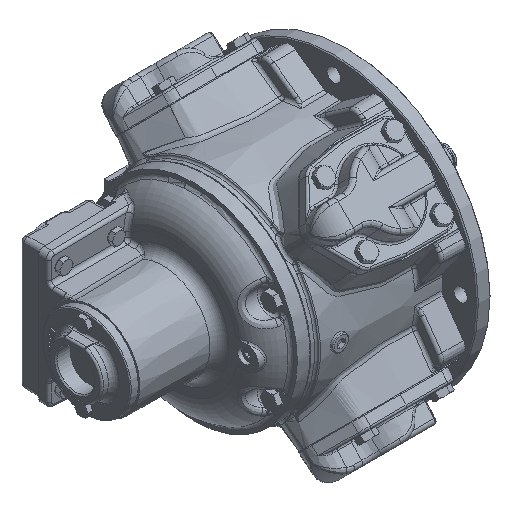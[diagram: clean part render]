
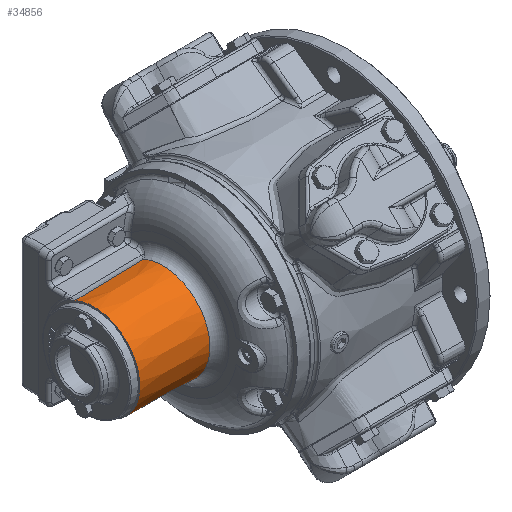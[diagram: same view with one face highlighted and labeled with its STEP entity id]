
A CAD part, isometric view. The second image highlights one B-rep face of the part: STEP entity #34856.
In plain terms, the highlighted conical face has half-angle 1 degrees and reference radius 49.33 mm.
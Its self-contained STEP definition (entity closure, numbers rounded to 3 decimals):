
#541 = CARTESIAN_POINT ( 'NONE',  ( -139.334, 20.042, 44.793 ) ) ;
#900 = DIRECTION ( 'NONE',  ( 1., 0., 0. ) ) ;
#2123 = CARTESIAN_POINT ( 'NONE',  ( -124.625, 20.109, -45.045 ) ) ;
#7857 = CARTESIAN_POINT ( 'NONE',  ( -154.043, 19.976, 44.542 ) ) ;
#8539 = CIRCLE ( 'NONE', #89902, 48.073 ) ;
#8758 = VERTEX_POINT ( 'NONE', #67994 ) ;
#12501 = VERTEX_POINT ( 'NONE', #88457 ) ;
#13377 = CARTESIAN_POINT ( 'NONE',  ( -178.035, 19.867, -44.132 ) ) ;
#13444 = CARTESIAN_POINT ( 'NONE',  ( -124.625, 20.109, 45.045 ) ) ;
#14730 = CARTESIAN_POINT ( 'NONE',  ( -168.752, 19.909, 44.291 ) ) ;
#15742 = EDGE_CURVE ( 'NONE', #8758, #82691, #35671, .T. ) ;
#21384 = AXIS2_PLACEMENT_3D ( 'NONE', #45443, #23831, #68020 ) ;
#22567 = CARTESIAN_POINT ( 'NONE',  ( -187.317, 19.824, 43.973 ) ) ;
#23831 = DIRECTION ( 'NONE',  ( 1., 0., 0. ) ) ;
#26630 = CARTESIAN_POINT ( 'NONE',  ( -124.625, 20.109, -45.045 ) ) ;
#28085 = EDGE_LOOP ( 'NONE', ( #32827, #77390, #62049, #72525 ) ) ;
#30425 = CARTESIAN_POINT ( 'NONE',  ( -124.625, 20.109, 45.045 ) ) ;
#31756 = VERTEX_POINT ( 'NONE', #2123 ) ;
#32827 = ORIENTED_EDGE ( 'NONE', *, *, #63485, .F. ) ;
#34856 = ADVANCED_FACE ( 'NONE', ( #38112 ), #75278, .T. ) ;
#35671 = B_SPLINE_CURVE_WITH_KNOTS ( 'NONE', 3,
 ( #51533, #22567, #81424, #14730, #7857, #541, #30425 ),
 .UNSPECIFIED., .F., .F.,
 ( 4, 3, 4 ),
 ( 0.002, 0.03, 0.074 ),
 .UNSPECIFIED. ) ;
#38112 = FACE_OUTER_BOUND ( 'NONE', #28085, .T. ) ;
#42314 = CARTESIAN_POINT ( 'NONE',  ( -196.6, 19.782, -43.815 ) ) ;
#44836 = DIRECTION ( 'NONE',  ( 0., 0., 1. ) ) ;
#45443 = CARTESIAN_POINT ( 'NONE',  ( -124.625, 0., 0. ) ) ;
#45774 = DIRECTION ( 'NONE',  ( 1., 0., 0. ) ) ;
#51533 = CARTESIAN_POINT ( 'NONE',  ( -196.6, 19.782, 43.815 ) ) ;
#53283 = EDGE_CURVE ( 'NONE', #12501, #31756, #82122, .T. ) ;
#56987 = CARTESIAN_POINT ( 'NONE',  ( -187.317, 19.824, -43.973 ) ) ;
#62049 = ORIENTED_EDGE ( 'NONE', *, *, #66182, .T. ) ;
#63485 = EDGE_CURVE ( 'NONE', #82691, #31756, #85544, .T. ) ;
#63873 = CARTESIAN_POINT ( 'NONE',  ( -168.752, 19.909, -44.291 ) ) ;
#64853 = CARTESIAN_POINT ( 'NONE',  ( -154.043, 19.976, -44.542 ) ) ;
#66182 = EDGE_CURVE ( 'NONE', #8758, #12501, #8539, .T. ) ;
#67994 = CARTESIAN_POINT ( 'NONE',  ( -196.6, 19.782, 43.815 ) ) ;
#68020 = DIRECTION ( 'NONE',  ( 0., 0., -1. ) ) ;
#68036 = CARTESIAN_POINT ( 'NONE',  ( -124.625, 0., 0. ) ) ;
#72197 = AXIS2_PLACEMENT_3D ( 'NONE', #68036, #900, #90519 ) ;
#72525 = ORIENTED_EDGE ( 'NONE', *, *, #53283, .T. ) ;
#75278 = CONICAL_SURFACE ( 'NONE', #72197, 49.33, 0.017 ) ;
#77390 = ORIENTED_EDGE ( 'NONE', *, *, #15742, .F. ) ;
#81424 = CARTESIAN_POINT ( 'NONE',  ( -178.035, 19.867, 44.132 ) ) ;
#82122 = B_SPLINE_CURVE_WITH_KNOTS ( 'NONE', 3,
 ( #42314, #56987, #13377, #63873, #64853, #94670, #26630 ),
 .UNSPECIFIED., .F., .F.,
 ( 4, 3, 4 ),
 ( 0.002, 0.03, 0.074 ),
 .UNSPECIFIED. ) ;
#82691 = VERTEX_POINT ( 'NONE', #13444 ) ;
#85544 = CIRCLE ( 'NONE', #21384, 49.33 ) ;
#88457 = CARTESIAN_POINT ( 'NONE',  ( -196.6, 19.782, -43.815 ) ) ;
#89398 = CARTESIAN_POINT ( 'NONE',  ( -196.6, 0., 0. ) ) ;
#89902 = AXIS2_PLACEMENT_3D ( 'NONE', #89398, #45774, #44836 ) ;
#90519 = DIRECTION ( 'NONE',  ( 0., 0., -1. ) ) ;
#94670 = CARTESIAN_POINT ( 'NONE',  ( -139.334, 20.042, -44.793 ) ) ;
